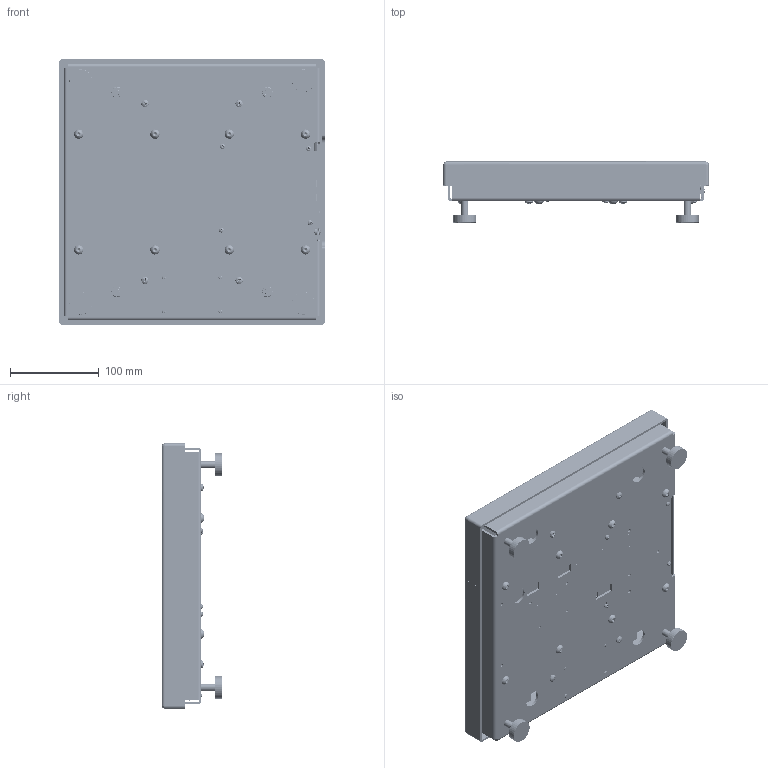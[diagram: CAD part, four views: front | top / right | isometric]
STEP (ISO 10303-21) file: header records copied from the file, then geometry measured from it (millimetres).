
FILE_DESCRIPTION (( 'STEP AP214' ), '1' );
FILE_NAME ('E-SCALE-6610-1212-130.STEP', '2019-08-29T22:22:48', ( '' ), ( '' ), 'SwSTEP 2.0', 'SolidWorks 2017', '' );
FILE_SCHEMA (( 'AUTOMOTIVE_DESIGN' ));
Length unit declared in the file: inch
Products named in the file (56): socket button head cap screw_am_B18.3.4M - 6 x 1.0 x 20 SBHCS --N-A2.70; 0075172_A3, A4 & A5; 0075308; pan cross head_ai_CR-PHMS 0.112-40x0.5x0.5-N; E-SCALE-6610-1212-130; 2140-0144-09-0; 0075233; 2814-0098-0_90633A007; 0074756_Modified By Hardy; 2814-T011_90633A005; red_green_LED; 0074883_91290A248; 0075294; mcv_1.5-9-g-3.81_1; 0018546; 2143-T004; 2815-0168-0_91780A534; 6610 Bare Board; 0530-0853-01-0; 5126-0009-0; hex jam nut_ai_HJNUT 0.2500-20-D-N; 2143-T013; 0075309; Chassis fastener Winchester Electronics A1591B; 0075290; 2815-0169-0_91780A521; 2817-0272-0_90402A146; 0514-0242-01-0_Rev A; 0075231_PBSH-60kg 300 X 300; Phoenix_1803646; 0075230_91780A198; 0075293; Amphenol_RJHSE-5080-02-REVT1; machine screw nut hex_ai_MSHXNUT 0.164-32-D-N; 0075232_80-001903; 0075295; 0075175_84-227973; 0530-0854-XX-0; pan cross head_ai_CR-PHMS 0.164-32x0.3125x0.3125-N-A2.70; 0075287_C2 CHIP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
Assembly tree (117 placements, depth 4):
  E-SCALE-6610-1212-130
    0074914_Modified By Hardy
    0075309
    0075175_84-227973  x4
      0075172_A3, A4 & A5
      0075174_3 & 4
      0075173_B3
    machine screw nut hex_ai_MSHXNUT 0.164-32-D-N  x4
    hex jam nut_ai_HJNUT 0.2500-20-D-N  x4
    0074756_Modified By Hardy
    0075198  x4
    0075200_93505A451  x4
    0075290
      0075233
      0018546  x4
      0075287_C2 CHIP
      0075295  x4
        0075294
        0075293
    pan cross head_ai_CR-PHMS 0.164-32x0.3125x0.3125-N-A2.70  x4
    0074881_PBSH-15kg SUB-ASSEMBLY  x4
      0074871
      0044535
      0066958
      0074883_91290A248
    0075231_PBSH-60kg 300 X 300  x4
      0075230_91780A198
      0075232_80-001903
      flat head screw_ai_CR-FHMS 0.164-32x0.875x0.875-N-A2.70
      pan cross head_ai_CR-PHMS 0.164-32x0.3125x0.3125-N-A2.70
    socket button head cap screw_am_B18.3.4M - 6 x 1.0 x 20 SBHCS --N-A2.70  x8
    2814-0098-0_90633A007  x2
    2143-T013
    2143-T004
    flat washer type a selected narrow_ai_Selected Narrow FW 0.125  x5
    2814-T011_90633A005
    0514-0242-01-0_Rev A
    2817-0272-0_90402A146
    0535-0567-02-0 WO Ethernet Port
      6610 Bare Board
      Chassis fastener Winchester Electronics A1591B  x2
      red_green_LED
      5126-0009-0
      Amphenol_RJHSE-5080-02-REVT1
      2140-0144-09-0
        mcv_1.5-9-g-3.81_1
      Phoenix_1803646
      Bivar Spacer_TO-201-040  x4
    pan cross head_ai_CR-PHMS 0.112-40x0.5x0.5-N  x4
    2815-0169-0_91780A521  x7
    2815-0168-0_91780A534
    lock washer spring regular_ai_Regular LW 0.112  x4
    0530-0853-01-0
    0530-0856-01-0
    0530-0854-XX-0
    0075304_42-000189
    0075308
Bounding box: 298.32 x 68.17 x 298.19 mm (x, y, z)
Volume: 852921.7 mm3; surface area: 662819.3 mm2
Topology: 677 solids, 680 shells, 18916 faces, 48627 edges, 31638 vertices
Faces by surface type: plane 9656, bspline 5470, cylinder 2478, cone 1104, torus 134, sphere 74
Entity records: 693477 total; most frequent: CARTESIAN_POINT 199862, ORIENTED_EDGE 80502, DIRECTION 51237, EDGE_CURVE 40256, VERTEX_POINT 26505, VECTOR 25039, LINE 25039, EDGE_LOOP 16493
